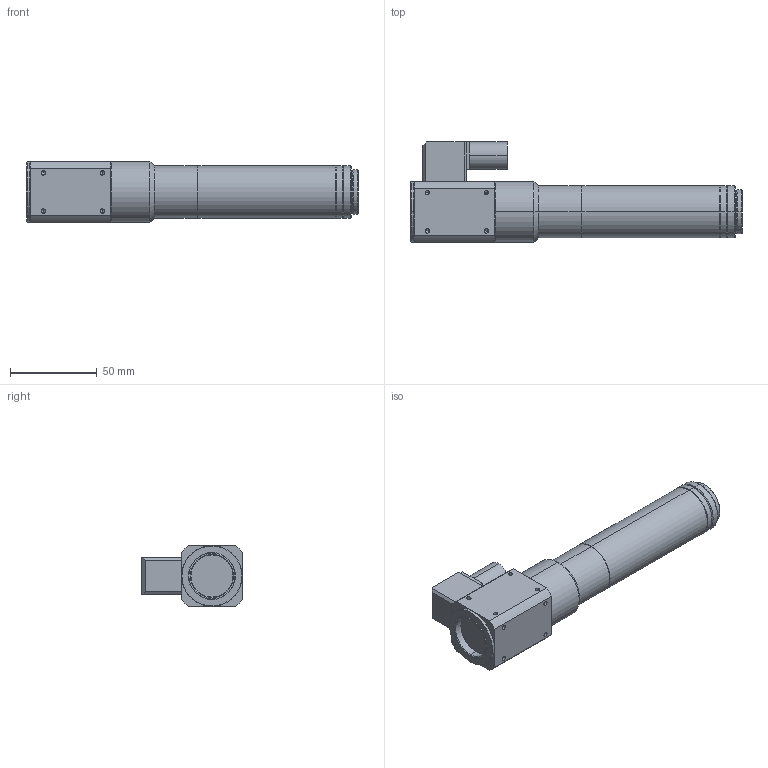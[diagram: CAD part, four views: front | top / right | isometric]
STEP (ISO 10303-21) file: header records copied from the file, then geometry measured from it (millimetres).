
FILE_DESCRIPTION (( 'STEP AP203' ), '1' );
FILE_NAME ('VS-MS1N.STEP', '2015-11-02T00:39:45', ( 'miura_vst' ), ( '' ), 'SwSTEP 2.0', 'SolidWorks 2015', '' );
FILE_SCHEMA (( 'CONFIG_CONTROL_DESIGN' ));
Length unit declared in the file: millimetre
Products named in the file (1): VS-MS1N
Bounding box: 191.5 x 58 x 35 mm (x, y, z)
Volume: 150394 mm3; surface area: 34263.4 mm2
Topology: 1 solids, 1 shells, 195 faces, 433 edges, 245 vertices
Faces by surface type: cone 84, cylinder 74, plane 35, sphere 2
Entity records: 5260 total; most frequent: DIRECTION 1003, CARTESIAN_POINT 856, ORIENTED_EDGE 818, EDGE_CURVE 409, AXIS2_PLACEMENT_3D 400, VERTEX_POINT 245, EDGE_LOOP 224, CIRCLE 204
